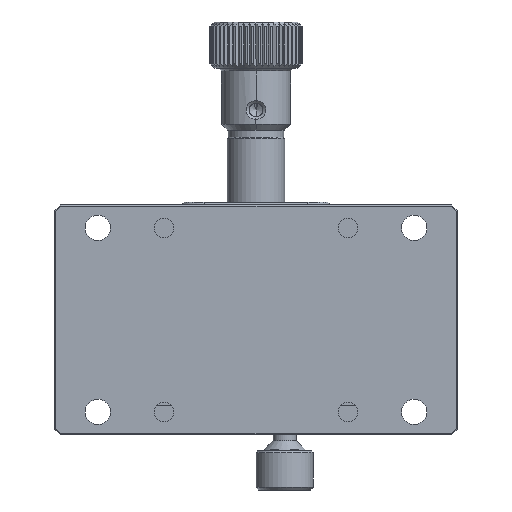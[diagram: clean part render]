
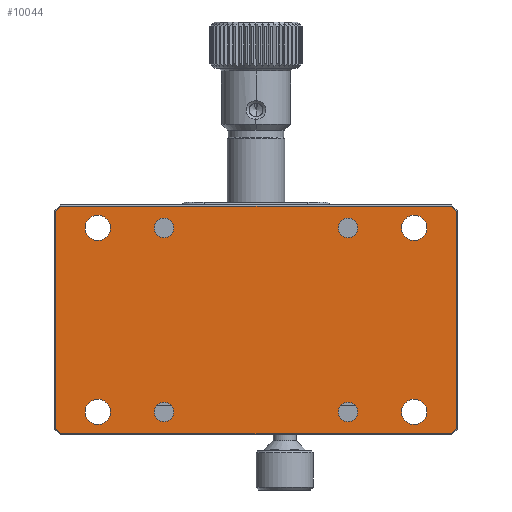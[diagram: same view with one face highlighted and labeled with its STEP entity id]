
A CAD part, front view. The second image highlights one B-rep face of the part: STEP entity #10044.
In plain terms, the highlighted planar face has unit normal (0, -1, 0).
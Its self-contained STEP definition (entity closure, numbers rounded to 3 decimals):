
#550=DIRECTION('',(0.707,0.,-0.707));
#551=VECTOR('',#550,1.249);
#552=CARTESIAN_POINT('',(-19.8,-14.5,-33.917));
#553=LINE('',#552,#551);
#554=DIRECTION('',(0.,0.,-1.));
#555=VECTOR('',#554,67.834);
#556=CARTESIAN_POINT('',(-19.8,-14.5,33.917));
#557=LINE('',#556,#555);
#558=DIRECTION('',(-0.707,0.,-0.707));
#559=VECTOR('',#558,1.249);
#560=CARTESIAN_POINT('',(-18.917,-14.5,34.8));
#561=LINE('',#560,#559);
#562=DIRECTION('',(-1.,0.,0.));
#563=VECTOR('',#562,37.834);
#564=CARTESIAN_POINT('',(18.917,-14.5,34.8));
#565=LINE('',#564,#563);
#566=DIRECTION('',(-0.707,0.,0.707));
#567=VECTOR('',#566,1.249);
#568=CARTESIAN_POINT('',(19.8,-14.5,33.917));
#569=LINE('',#568,#567);
#570=DIRECTION('',(0.,0.,1.));
#571=VECTOR('',#570,67.834);
#572=CARTESIAN_POINT('',(19.8,-14.5,-33.917));
#573=LINE('',#572,#571);
#574=DIRECTION('',(0.707,0.,0.707));
#575=VECTOR('',#574,1.249);
#576=CARTESIAN_POINT('',(18.917,-14.5,-34.8));
#577=LINE('',#576,#575);
#578=DIRECTION('',(1.,0.,0.));
#579=VECTOR('',#578,37.834);
#580=CARTESIAN_POINT('',(-18.917,-14.5,-34.8));
#581=LINE('',#580,#579);
#582=CARTESIAN_POINT('',(-16.,-14.5,-27.5));
#583=DIRECTION('',(0.,1.,0.));
#584=DIRECTION('',(1.,0.,0.));
#585=AXIS2_PLACEMENT_3D('',#582,#583,#584);
#587=CARTESIAN_POINT('',(-16.,-14.5,-27.5));
#588=DIRECTION('',(0.,1.,0.));
#589=DIRECTION('',(-1.,0.,0.));
#590=AXIS2_PLACEMENT_3D('',#587,#588,#589);
#592=CARTESIAN_POINT('',(16.,-14.5,-27.5));
#593=DIRECTION('',(0.,1.,0.));
#594=DIRECTION('',(1.,0.,0.));
#595=AXIS2_PLACEMENT_3D('',#592,#593,#594);
#597=CARTESIAN_POINT('',(16.,-14.5,-27.5));
#598=DIRECTION('',(0.,1.,0.));
#599=DIRECTION('',(-1.,0.,0.));
#600=AXIS2_PLACEMENT_3D('',#597,#598,#599);
#602=CARTESIAN_POINT('',(-16.,-14.5,27.5));
#603=DIRECTION('',(0.,1.,0.));
#604=DIRECTION('',(1.,0.,0.));
#605=AXIS2_PLACEMENT_3D('',#602,#603,#604);
#607=CARTESIAN_POINT('',(-16.,-14.5,27.5));
#608=DIRECTION('',(0.,1.,0.));
#609=DIRECTION('',(-1.,0.,0.));
#610=AXIS2_PLACEMENT_3D('',#607,#608,#609);
#612=CARTESIAN_POINT('',(16.,-14.5,27.5));
#613=DIRECTION('',(0.,1.,0.));
#614=DIRECTION('',(1.,0.,0.));
#615=AXIS2_PLACEMENT_3D('',#612,#613,#614);
#617=CARTESIAN_POINT('',(16.,-14.5,27.5));
#618=DIRECTION('',(0.,1.,0.));
#619=DIRECTION('',(-1.,0.,0.));
#620=AXIS2_PLACEMENT_3D('',#617,#618,#619);
#622=CARTESIAN_POINT('',(-16.,-14.5,-16.));
#623=DIRECTION('',(0.,1.,0.));
#624=DIRECTION('',(1.,0.,0.));
#625=AXIS2_PLACEMENT_3D('',#622,#623,#624);
#627=CARTESIAN_POINT('',(-16.,-14.5,-16.));
#628=DIRECTION('',(0.,1.,0.));
#629=DIRECTION('',(-1.,0.,0.));
#630=AXIS2_PLACEMENT_3D('',#627,#628,#629);
#632=CARTESIAN_POINT('',(16.,-14.5,-16.));
#633=DIRECTION('',(0.,1.,0.));
#634=DIRECTION('',(1.,0.,0.));
#635=AXIS2_PLACEMENT_3D('',#632,#633,#634);
#637=CARTESIAN_POINT('',(16.,-14.5,-16.));
#638=DIRECTION('',(0.,1.,0.));
#639=DIRECTION('',(-1.,0.,0.));
#640=AXIS2_PLACEMENT_3D('',#637,#638,#639);
#642=CARTESIAN_POINT('',(-16.,-14.5,16.));
#643=DIRECTION('',(0.,1.,0.));
#644=DIRECTION('',(1.,0.,0.));
#645=AXIS2_PLACEMENT_3D('',#642,#643,#644);
#647=CARTESIAN_POINT('',(-16.,-14.5,16.));
#648=DIRECTION('',(0.,1.,0.));
#649=DIRECTION('',(-1.,0.,0.));
#650=AXIS2_PLACEMENT_3D('',#647,#648,#649);
#652=CARTESIAN_POINT('',(16.,-14.5,16.));
#653=DIRECTION('',(0.,1.,0.));
#654=DIRECTION('',(1.,0.,0.));
#655=AXIS2_PLACEMENT_3D('',#652,#653,#654);
#657=CARTESIAN_POINT('',(16.,-14.5,16.));
#658=DIRECTION('',(0.,1.,0.));
#659=DIRECTION('',(-1.,0.,0.));
#660=AXIS2_PLACEMENT_3D('',#657,#658,#659);
#6913=CARTESIAN_POINT('',(-19.8,-14.5,-33.917));
#6914=CARTESIAN_POINT('',(-18.917,-14.5,-34.8));
#6915=VERTEX_POINT('',#6913);
#6916=VERTEX_POINT('',#6914);
#6923=CARTESIAN_POINT('',(18.917,-14.5,-34.8));
#6924=VERTEX_POINT('',#6923);
#6925=CARTESIAN_POINT('',(19.8,-14.5,-33.917));
#6926=VERTEX_POINT('',#6925);
#6931=CARTESIAN_POINT('',(19.8,-14.5,33.917));
#6932=VERTEX_POINT('',#6931);
#6933=CARTESIAN_POINT('',(18.917,-14.5,34.8));
#6934=VERTEX_POINT('',#6933);
#6939=CARTESIAN_POINT('',(-18.917,-14.5,34.8));
#6940=VERTEX_POINT('',#6939);
#6943=CARTESIAN_POINT('',(-19.8,-14.5,33.917));
#6944=VERTEX_POINT('',#6943);
#8333=CARTESIAN_POINT('',(-13.8,-14.5,-27.5));
#8334=CARTESIAN_POINT('',(-18.2,-14.5,-27.5));
#8335=VERTEX_POINT('',#8333);
#8336=VERTEX_POINT('',#8334);
#8337=CARTESIAN_POINT('',(18.2,-14.5,-27.5));
#8338=CARTESIAN_POINT('',(13.8,-14.5,-27.5));
#8339=VERTEX_POINT('',#8337);
#8340=VERTEX_POINT('',#8338);
#8341=CARTESIAN_POINT('',(-13.8,-14.5,27.5));
#8342=CARTESIAN_POINT('',(-18.2,-14.5,27.5));
#8343=VERTEX_POINT('',#8341);
#8344=VERTEX_POINT('',#8342);
#8345=CARTESIAN_POINT('',(18.2,-14.5,27.5));
#8346=CARTESIAN_POINT('',(13.8,-14.5,27.5));
#8347=VERTEX_POINT('',#8345);
#8348=VERTEX_POINT('',#8346);
#9113=CARTESIAN_POINT('',(-14.3,-14.5,-16.));
#9114=CARTESIAN_POINT('',(-17.7,-14.5,-16.));
#9115=VERTEX_POINT('',#9113);
#9116=VERTEX_POINT('',#9114);
#9117=CARTESIAN_POINT('',(17.7,-14.5,-16.));
#9118=CARTESIAN_POINT('',(14.3,-14.5,-16.));
#9119=VERTEX_POINT('',#9117);
#9120=VERTEX_POINT('',#9118);
#9121=CARTESIAN_POINT('',(-14.3,-14.5,16.));
#9122=CARTESIAN_POINT('',(-17.7,-14.5,16.));
#9123=VERTEX_POINT('',#9121);
#9124=VERTEX_POINT('',#9122);
#9125=CARTESIAN_POINT('',(17.7,-14.5,16.));
#9126=CARTESIAN_POINT('',(14.3,-14.5,16.));
#9127=VERTEX_POINT('',#9125);
#9128=VERTEX_POINT('',#9126);
#9974=CARTESIAN_POINT('',(0.,-14.5,0.));
#9975=DIRECTION('',(0.,1.,0.));
#9976=DIRECTION('',(1.,0.,0.));
#9977=AXIS2_PLACEMENT_3D('',#9974,#9975,#9976);
#9978=PLANE('',#9977);
#9980=ORIENTED_EDGE('',*,*,#9979,.F.);
#9982=ORIENTED_EDGE('',*,*,#9981,.F.);
#9984=ORIENTED_EDGE('',*,*,#9983,.F.);
#9986=ORIENTED_EDGE('',*,*,#9985,.F.);
#9988=ORIENTED_EDGE('',*,*,#9987,.F.);
#9990=ORIENTED_EDGE('',*,*,#9989,.F.);
#9991=ORIENTED_EDGE('',*,*,#9964,.F.);
#9993=ORIENTED_EDGE('',*,*,#9992,.F.);
#9994=EDGE_LOOP('',(#9980,#9982,#9984,#9986,#9988,#9990,#9991,#9993));
#9995=FACE_OUTER_BOUND('',#9994,.F.);
#9997=ORIENTED_EDGE('',*,*,#9996,.F.);
#9999=ORIENTED_EDGE('',*,*,#9998,.F.);
#10000=EDGE_LOOP('',(#9997,#9999));
#10001=FACE_BOUND('',#10000,.F.);
#10003=ORIENTED_EDGE('',*,*,#10002,.F.);
#10005=ORIENTED_EDGE('',*,*,#10004,.F.);
#10006=EDGE_LOOP('',(#10003,#10005));
#10007=FACE_BOUND('',#10006,.F.);
#10009=ORIENTED_EDGE('',*,*,#10008,.F.);
#10011=ORIENTED_EDGE('',*,*,#10010,.F.);
#10012=EDGE_LOOP('',(#10009,#10011));
#10013=FACE_BOUND('',#10012,.F.);
#10015=ORIENTED_EDGE('',*,*,#10014,.F.);
#10017=ORIENTED_EDGE('',*,*,#10016,.F.);
#10018=EDGE_LOOP('',(#10015,#10017));
#10019=FACE_BOUND('',#10018,.F.);
#10021=ORIENTED_EDGE('',*,*,#10020,.F.);
#10023=ORIENTED_EDGE('',*,*,#10022,.F.);
#10024=EDGE_LOOP('',(#10021,#10023));
#10025=FACE_BOUND('',#10024,.F.);
#10027=ORIENTED_EDGE('',*,*,#10026,.F.);
#10029=ORIENTED_EDGE('',*,*,#10028,.F.);
#10030=EDGE_LOOP('',(#10027,#10029));
#10031=FACE_BOUND('',#10030,.F.);
#10033=ORIENTED_EDGE('',*,*,#10032,.F.);
#10035=ORIENTED_EDGE('',*,*,#10034,.F.);
#10036=EDGE_LOOP('',(#10033,#10035));
#10037=FACE_BOUND('',#10036,.F.);
#10039=ORIENTED_EDGE('',*,*,#10038,.F.);
#10041=ORIENTED_EDGE('',*,*,#10040,.F.);
#10042=EDGE_LOOP('',(#10039,#10041));
#10043=FACE_BOUND('',#10042,.F.);
#10044=ADVANCED_FACE('',(#9995,#10001,#10007,#10013,#10019,#10025,#10031,#10037,
#10043),#9978,.F.);
#586=CIRCLE('',#585,2.2);
#591=CIRCLE('',#590,2.2);
#596=CIRCLE('',#595,2.2);
#601=CIRCLE('',#600,2.2);
#606=CIRCLE('',#605,2.2);
#611=CIRCLE('',#610,2.2);
#616=CIRCLE('',#615,2.2);
#621=CIRCLE('',#620,2.2);
#626=CIRCLE('',#625,1.7);
#631=CIRCLE('',#630,1.7);
#636=CIRCLE('',#635,1.7);
#641=CIRCLE('',#640,1.7);
#646=CIRCLE('',#645,1.7);
#651=CIRCLE('',#650,1.7);
#656=CIRCLE('',#655,1.7);
#661=CIRCLE('',#660,1.7);
#9964=EDGE_CURVE('',#6924,#6926,#577,.T.);
#9979=EDGE_CURVE('',#6915,#6916,#553,.T.);
#9981=EDGE_CURVE('',#6944,#6915,#557,.T.);
#9983=EDGE_CURVE('',#6940,#6944,#561,.T.);
#9985=EDGE_CURVE('',#6934,#6940,#565,.T.);
#9987=EDGE_CURVE('',#6932,#6934,#569,.T.);
#9989=EDGE_CURVE('',#6926,#6932,#573,.T.);
#9992=EDGE_CURVE('',#6916,#6924,#581,.T.);
#9996=EDGE_CURVE('',#8335,#8336,#586,.T.);
#9998=EDGE_CURVE('',#8336,#8335,#591,.T.);
#10002=EDGE_CURVE('',#8339,#8340,#596,.T.);
#10004=EDGE_CURVE('',#8340,#8339,#601,.T.);
#10008=EDGE_CURVE('',#8343,#8344,#606,.T.);
#10010=EDGE_CURVE('',#8344,#8343,#611,.T.);
#10014=EDGE_CURVE('',#8347,#8348,#616,.T.);
#10016=EDGE_CURVE('',#8348,#8347,#621,.T.);
#10020=EDGE_CURVE('',#9115,#9116,#626,.T.);
#10022=EDGE_CURVE('',#9116,#9115,#631,.T.);
#10026=EDGE_CURVE('',#9119,#9120,#636,.T.);
#10028=EDGE_CURVE('',#9120,#9119,#641,.T.);
#10032=EDGE_CURVE('',#9123,#9124,#646,.T.);
#10034=EDGE_CURVE('',#9124,#9123,#651,.T.);
#10038=EDGE_CURVE('',#9127,#9128,#656,.T.);
#10040=EDGE_CURVE('',#9128,#9127,#661,.T.);
